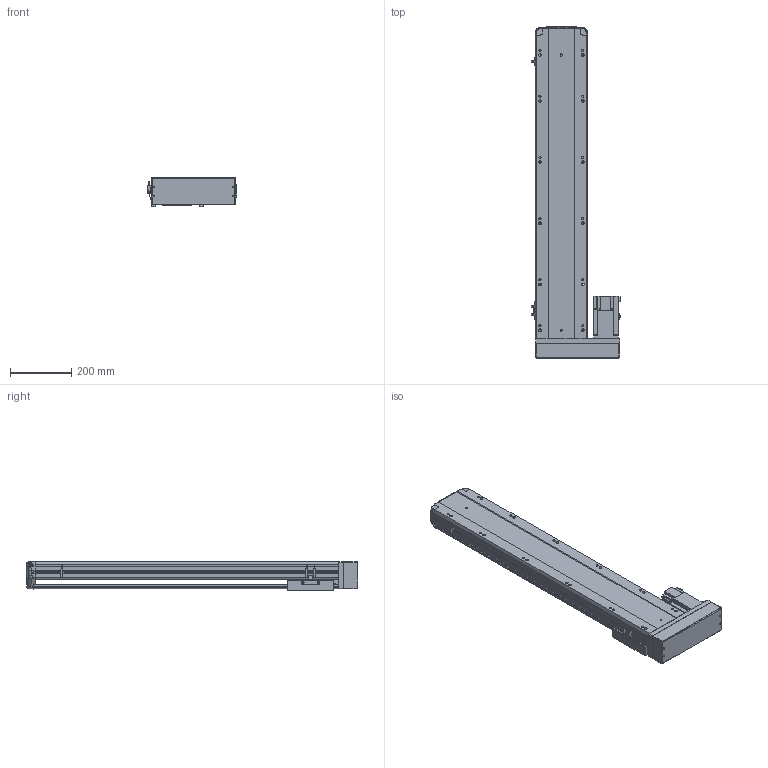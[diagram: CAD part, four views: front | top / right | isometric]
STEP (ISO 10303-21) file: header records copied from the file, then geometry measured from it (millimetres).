
FILE_DESCRIPTION (( 'STEP AP203' ), '1' );
FILE_NAME ('80.STEP', '2022-07-02T03:24:18', ( '' ), ( '' ), 'SwSTEP 2.0', 'SolidWorks 2016', '' );
FILE_SCHEMA (( 'CONFIG_CONTROL_DESIGN' ));
Length unit declared in the file: millimetre
Products named in the file (7): BTH17-BL-BM-BR-菁釱; BTH17-BR-04-T75; BTH17-BR-T75; BTH17-BR-02-T75; BTH17-BR-HZ-T75_賑釱; BTH17-BR-01-T75; 80
Assembly tree (8 placements, depth 2):
  80
    BTH17-BL-BM-BR-菁釱
    BTH17-BR-01-T75
    BTH17-BR-02-T75
    BTH17-BR-04-T75  x3
    BTH17-BR-HZ-T75_賑釱
    BTH17-BR-T75
Bounding box: 293 x 1085.53 x 97 mm (x, y, z)
Volume: 8022304.9 mm3; surface area: 1393703 mm2
Topology: 14 solids, 14 shells, 1619 faces, 4369 edges, 2789 vertices
Faces by surface type: plane 853, cylinder 445, bspline 203, cone 95, torus 23
Entity records: 55853 total; most frequent: CARTESIAN_POINT 21247, ORIENTED_EDGE 7536, DIRECTION 6292, EDGE_CURVE 3768, VERTEX_POINT 2429, LINE 2144, VECTOR 2144, AXIS2_PLACEMENT_3D 2074
